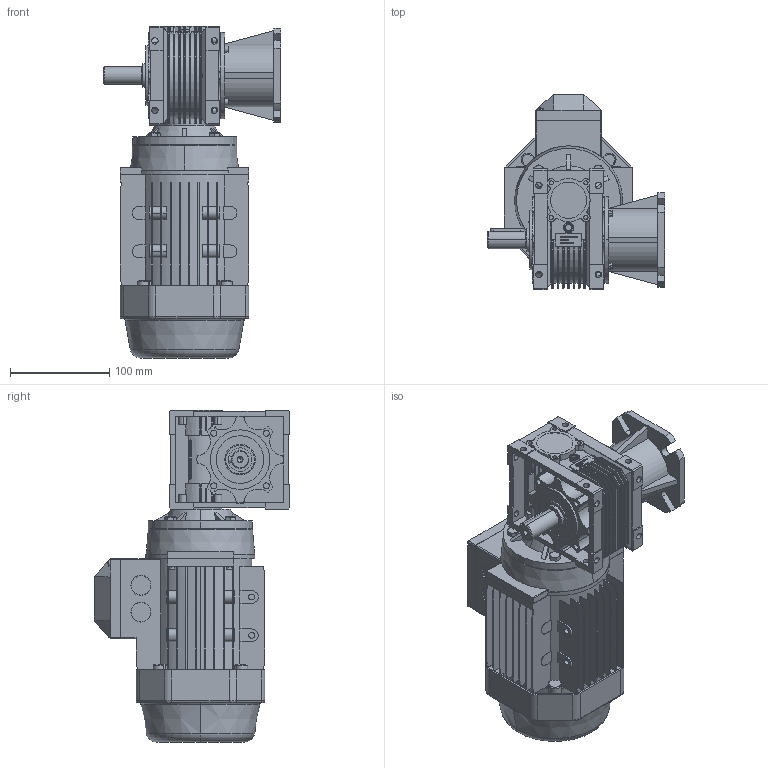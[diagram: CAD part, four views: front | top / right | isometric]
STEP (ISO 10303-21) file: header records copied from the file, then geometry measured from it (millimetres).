
FILE_DESCRIPTION (( 'STEP AP214' ), '1' );
FILE_NAME ('STP_NMRV040_双向输出轴_18_71B14_FB_71_YS_1_无_输出法兰FB1_无或C2_无_无.step', '2023-06-15T02:18:12', ( 'IT Division' ), ( 'IT' ), 'SwSTEP 2.0', 'SolidWorks 2016', '' );
FILE_SCHEMA (( 'AUTOMOTIVE_DESIGN' ));
Length unit declared in the file: millimetre
Products named in the file (3): STP_NMRV040_双向输出轴_18_71B14_FB_71_YS_1_无_输出法兰FB1_无或C2_无_无_IEC电机_YS-0.25-4P; STP_NMRV040_双向输出轴_18_71B14_FB_71_YS_1_无_输出法兰FB1_无或C2_无_无_NMRV_NMRV040; STP_NMRV040_双向输出轴_18_71B14_FB_71_YS_1_无_输出法兰FB1_无或C2_无_无
Assembly tree (2 placements, depth 2):
  STP_NMRV040_双向输出轴_18_71B14_FB_71_YS_1_无_输出法兰FB1_无或C2_无_无
    STP_NMRV040_双向输出轴_18_71B14_FB_71_YS_1_无_输出法兰FB1_无或C2_无_无_NMRV_NMRV040
    STP_NMRV040_双向输出轴_18_71B14_FB_71_YS_1_无_输出法兰FB1_无或C2_无_无_IEC电机_YS-0.25-4P
Bounding box: 179 x 197 x 335 mm (x, y, z)
Volume: 3118797.1 mm3; surface area: 487362.9 mm2
Topology: 6 solids, 6 shells, 3103 faces, 8207 edges, 5226 vertices
Faces by surface type: plane 1647, cylinder 719, bspline 435, sphere 135, torus 104, cone 63
Entity records: 116666 total; most frequent: CARTESIAN_POINT 40873, ORIENTED_EDGE 16244, DIRECTION 14107, EDGE_CURVE 8122, VERTEX_POINT 5224, LINE 5215, VECTOR 5215, AXIS2_PLACEMENT_3D 4446
